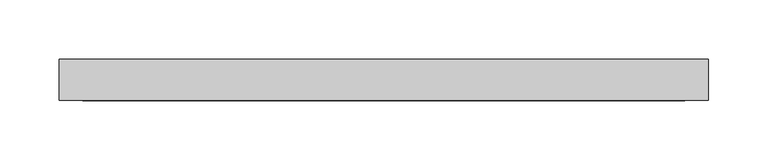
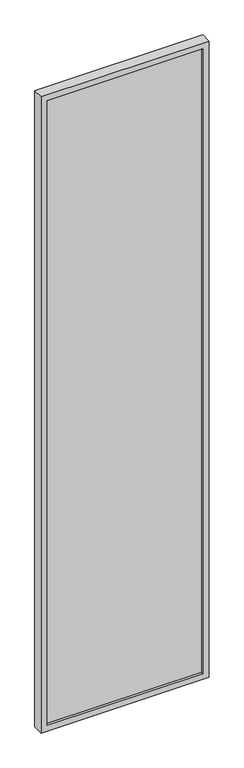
"""IFC4 building model written with IfcOpenShell, lengths in millimetres: plate geometry, ARQ-PA-IN-Vidrio Fijo Laminado  : ARQ-PA-IN-Vidrio Fijo Laminado ."""

from ifc_helpers import new_model, si_unit, frame, origin, place, context, project, spatial, polyline, outline, extrude, source, transform, mapped, element, save


def plate_c2ac4313(model_context):
    return source(origin(), model_context, "Body", "SweptSolid", [
        extrude(outline(polyline([(255.0, 10.0), (255.0, -10.0), (-255.0, -10.0), (-255.0, 10.0), (255.0, 10.0)])), frame((0.0, 0.0, 20.0), z_axis=(0.0, 0.0, 1.0), x_axis=(1.0, 0.0, 0.0)), (0.0, 0.0, 1.0), 2160.0),
        extrude(outline(polyline([(2200.0, -275.0), (0.0, -275.0), (0.0, 275.0), (2200.0, 275.0), (2200.0, -275.0)]), holes=[polyline([(2180.0, -255.0), (2180.0, 255.0), (20.0, 255.0), (20.0, -255.0), (2180.0, -255.0)])]), frame((0.0, -17.5, 0.0), z_axis=(0.0, 1.0, 0.0), x_axis=(0.0, 0.0, 1.0)), (0.0, 0.0, 1.0), 35.0),
    ])


if __name__ == "__main__":
    model = new_model("IFC4")
    model_context = context("Model", 3, world=origin())
    ifc_project = project(units=[si_unit("LENGTHUNIT", "METRE", prefix="MILLI")], contexts=[model_context])
    site = spatial("IfcSite", under=ifc_project)
    building = spatial("IfcBuilding", under=site)
    placement = place(None, origin())
    plate_shape = plate_c2ac4313(model_context)
    element("IfcPlate", 1, ObjectType="ARQ-PA-IN-Vidrio Fijo Laminado  : ARQ-PA-IN-Vidrio Fijo Laminado ", at=placement, inside=building, context=model_context, shape_type="MappedRepresentation", body=[
        mapped(plate_shape, transform((0.0, 0.0, 0.0), x_axis=(1.0, 0.0, 0.0), y_axis=(0.0, 1.0, 0.0), z_axis=(0.0, 0.0, 1.0))),
    ])
    save(model, "model.ifc")
